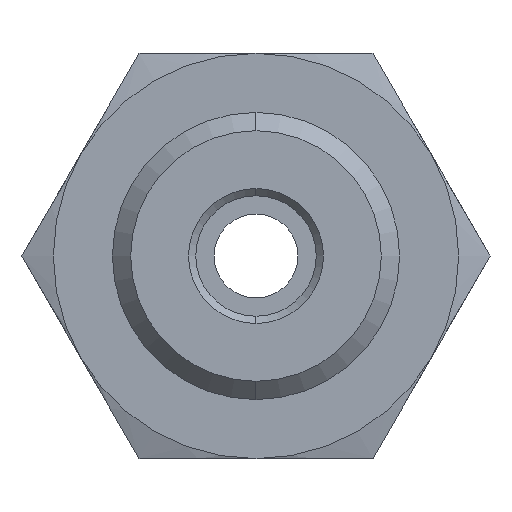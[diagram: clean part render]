
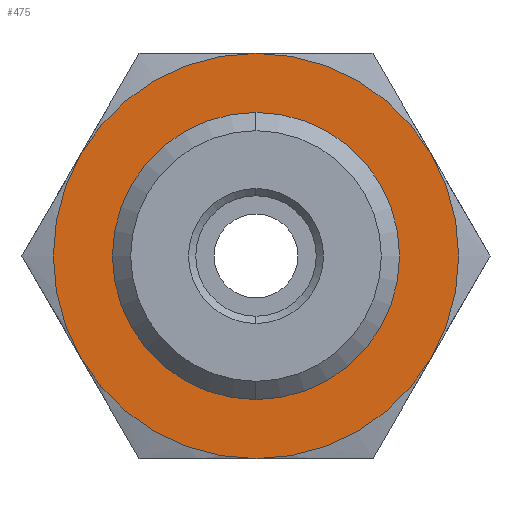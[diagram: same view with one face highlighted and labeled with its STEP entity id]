
A CAD part, left-side view. The second image highlights one B-rep face of the part: STEP entity #475.
In plain terms, the highlighted planar face has unit normal (-1, 0, 0).
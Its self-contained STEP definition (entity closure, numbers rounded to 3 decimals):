
#54 = VERTEX_POINT ( 'NONE', #626 ) ;
#105 = VERTEX_POINT ( 'NONE', #773 ) ;
#128 = VERTEX_POINT ( 'NONE', #980 ) ;
#131 = VERTEX_POINT ( 'NONE', #840 ) ;
#142 = VERTEX_POINT ( 'NONE', #893 ) ;
#190 = VERTEX_POINT ( 'NONE', #936 ) ;
#192 = EDGE_CURVE ( 'NONE', #190, #128, #935, .T. ) ;
#288 = EDGE_CURVE ( 'NONE', #131, #142, #1498, .T. ) ;
#294 = EDGE_CURVE ( 'NONE', #105, #131, #1488, .T. ) ;
#316 = EDGE_CURVE ( 'NONE', #440, #54, #1546, .T. ) ;
#440 = VERTEX_POINT ( 'NONE', #1132 ) ;
#446 = VERTEX_POINT ( 'NONE', #1083 ) ;
#467 = ORIENTED_EDGE ( 'NONE', *, *, #316, .T. ) ;
#468 = ORIENTED_EDGE ( 'NONE', *, *, #507, .T. ) ;
#469 = ORIENTED_EDGE ( 'NONE', *, *, #294, .T. ) ;
#470 = ORIENTED_EDGE ( 'NONE', *, *, #288, .T. ) ;
#471 = ORIENTED_EDGE ( 'NONE', *, *, #527, .T. ) ;
#472 = ORIENTED_EDGE ( 'NONE', *, *, #521, .T. ) ;
#474 = EDGE_CURVE ( 'NONE', #128, #190, #1113, .T. ) ;
#475 = ADVANCED_FACE ( 'NONE', ( #1108, #1107 ), #1106, .F. ) ;
#476 = EDGE_LOOP ( 'NONE', ( #477, #478 ) ) ;
#477 = ORIENTED_EDGE ( 'NONE', *, *, #474, .F. ) ;
#478 = ORIENTED_EDGE ( 'NONE', *, *, #192, .F. ) ;
#479 = EDGE_LOOP ( 'NONE', ( #467, #468, #469, #470, #471, #472 ) ) ;
#507 = EDGE_CURVE ( 'NONE', #54, #105, #1297, .T. ) ;
#521 = EDGE_CURVE ( 'NONE', #446, #440, #1274, .T. ) ;
#527 = EDGE_CURVE ( 'NONE', #142, #446, #1419, .T. ) ;
#626 = CARTESIAN_POINT ( 'NONE',  ( 0., 0., -5.555 ) ) ;
#773 = CARTESIAN_POINT ( 'NONE',  ( 0., -4.811, -2.777 ) ) ;
#840 = CARTESIAN_POINT ( 'NONE',  ( 0., -4.811, 2.777 ) ) ;
#893 = CARTESIAN_POINT ( 'NONE',  ( 0., 0., 5.555 ) ) ;
#931 = DIRECTION ( 'NONE',  ( 0., 0., -1. ) ) ;
#932 = DIRECTION ( 'NONE',  ( -1., 0., 0. ) ) ;
#933 = CARTESIAN_POINT ( 'NONE',  ( 0., 0., 0. ) ) ;
#934 = AXIS2_PLACEMENT_3D ( 'NONE', #933, #932, #931 ) ;
#935 = CIRCLE ( 'NONE', #934, 3.935 ) ;
#936 = CARTESIAN_POINT ( 'NONE',  ( 0., 0., 3.935 ) ) ;
#980 = CARTESIAN_POINT ( 'NONE',  ( 0., 0., -3.935 ) ) ;
#1083 = CARTESIAN_POINT ( 'NONE',  ( 0., 4.811, 2.778 ) ) ;
#1101 = DIRECTION ( 'NONE',  ( 0., 0., -1. ) ) ;
#1102 = DIRECTION ( 'NONE',  ( 1., 0., 0. ) ) ;
#1103 = AXIS2_PLACEMENT_3D ( 'NONE', #1105, #1102, #1101 ) ;
#1105 = CARTESIAN_POINT ( 'NONE',  ( 0., 6.414, 0. ) ) ;
#1106 = PLANE ( 'NONE',  #1103 ) ;
#1107 = FACE_OUTER_BOUND ( 'NONE', #479, .T. ) ;
#1108 = FACE_BOUND ( 'NONE', #476, .T. ) ;
#1109 = DIRECTION ( 'NONE',  ( 0., 0., -1. ) ) ;
#1110 = DIRECTION ( 'NONE',  ( -1., 0., 0. ) ) ;
#1111 = CARTESIAN_POINT ( 'NONE',  ( 0., 0., 0. ) ) ;
#1112 = AXIS2_PLACEMENT_3D ( 'NONE', #1111, #1110, #1109 ) ;
#1113 = CIRCLE ( 'NONE', #1112, 3.935 ) ;
#1132 = CARTESIAN_POINT ( 'NONE',  ( 0., 4.811, -2.777 ) ) ;
#1270 = DIRECTION ( 'NONE',  ( 0., 0., 1. ) ) ;
#1271 = DIRECTION ( 'NONE',  ( -1., 0., 0. ) ) ;
#1272 = CARTESIAN_POINT ( 'NONE',  ( 0., 0., 0. ) ) ;
#1273 = AXIS2_PLACEMENT_3D ( 'NONE', #1272, #1271, #1270 ) ;
#1274 = CIRCLE ( 'NONE', #1273, 5.555 ) ;
#1293 = DIRECTION ( 'NONE',  ( 0., 0., 1. ) ) ;
#1294 = DIRECTION ( 'NONE',  ( -1., 0., 0. ) ) ;
#1295 = CARTESIAN_POINT ( 'NONE',  ( 0., 0., 0. ) ) ;
#1296 = AXIS2_PLACEMENT_3D ( 'NONE', #1295, #1294, #1293 ) ;
#1297 = CIRCLE ( 'NONE', #1296, 5.555 ) ;
#1415 = DIRECTION ( 'NONE',  ( 0., 0., 1. ) ) ;
#1416 = DIRECTION ( 'NONE',  ( -1., 0., 0. ) ) ;
#1417 = CARTESIAN_POINT ( 'NONE',  ( 0., 0., 0. ) ) ;
#1418 = AXIS2_PLACEMENT_3D ( 'NONE', #1417, #1416, #1415 ) ;
#1419 = CIRCLE ( 'NONE', #1418, 5.555 ) ;
#1484 = DIRECTION ( 'NONE',  ( 0., 0., 1. ) ) ;
#1485 = DIRECTION ( 'NONE',  ( -1., 0., 0. ) ) ;
#1486 = CARTESIAN_POINT ( 'NONE',  ( 0., 0., 0. ) ) ;
#1487 = AXIS2_PLACEMENT_3D ( 'NONE', #1486, #1485, #1484 ) ;
#1488 = CIRCLE ( 'NONE', #1487, 5.555 ) ;
#1495 = DIRECTION ( 'NONE',  ( 0., 0., 1. ) ) ;
#1496 = DIRECTION ( 'NONE',  ( -1., 0., 0. ) ) ;
#1497 = AXIS2_PLACEMENT_3D ( 'NONE', #1504, #1496, #1495 ) ;
#1498 = CIRCLE ( 'NONE', #1497, 5.555 ) ;
#1504 = CARTESIAN_POINT ( 'NONE',  ( 0., 0., 0. ) ) ;
#1539 = DIRECTION ( 'NONE',  ( 0., 0., 1. ) ) ;
#1540 = DIRECTION ( 'NONE',  ( -1., 0., 0. ) ) ;
#1541 = CARTESIAN_POINT ( 'NONE',  ( 0., 0., 0. ) ) ;
#1542 = AXIS2_PLACEMENT_3D ( 'NONE', #1541, #1540, #1539 ) ;
#1546 = CIRCLE ( 'NONE', #1542, 5.555 ) ;
